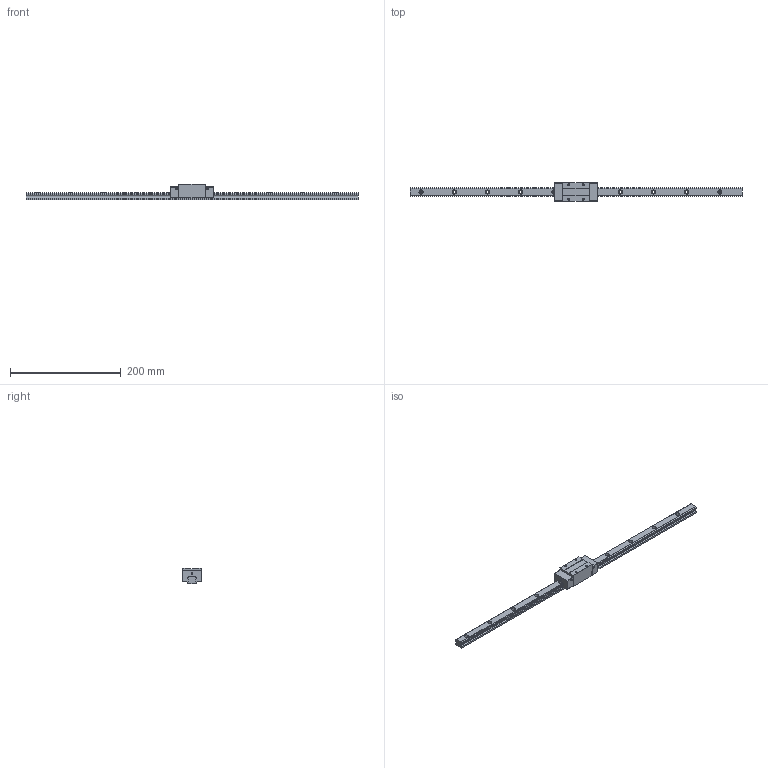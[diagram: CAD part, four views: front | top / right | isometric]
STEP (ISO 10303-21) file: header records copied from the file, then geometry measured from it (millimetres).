
FILE_DESCRIPTION (( 'STEP AP203' ), '1' );
FILE_NAME ('TRH15VL-SZ.STEP', '2024-07-09T03:35:05', ( '' ), ( '' ), 'SwSTEP 2.0', 'SolidWorks 2022', '' );
FILE_SCHEMA (( 'CONFIG_CONTROL_DESIGN' ));
Length unit declared in the file: millimetre
Products named in the file (1): TRH15VL-SZ
Bounding box: 600 x 34 x 28 mm (x, y, z)
Volume: 150544.2 mm3; surface area: 49633.1 mm2
Topology: 2 solids, 2 shells, 200 faces, 520 edges, 336 vertices
Faces by surface type: cylinder 96, plane 88, cone 16
Entity records: 6223 total; most frequent: DIRECTION 1114, CARTESIAN_POINT 1049, ORIENTED_EDGE 1024, EDGE_CURVE 512, AXIS2_PLACEMENT_3D 401, VERTEX_POINT 336, VECTOR 312, LINE 312
